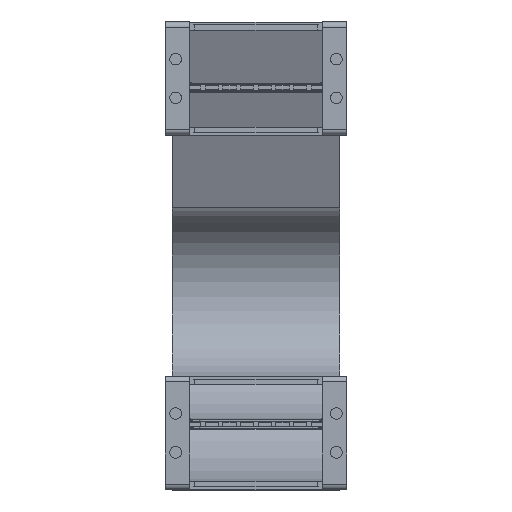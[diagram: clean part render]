
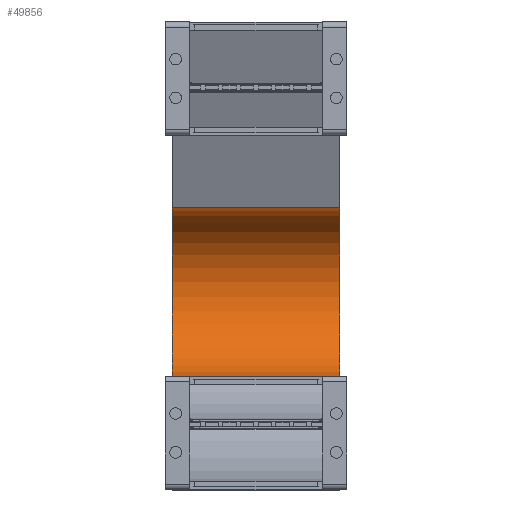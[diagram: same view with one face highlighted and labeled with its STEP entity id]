
A CAD part, top view. The second image highlights one B-rep face of the part: STEP entity #49856.
In plain terms, the highlighted cylindrical face has radius 48 mm (diameter 96 mm), a partial arc.
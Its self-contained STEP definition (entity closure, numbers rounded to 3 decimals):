
#49008=DIRECTION('',(-1.,0.,0.));
#49009=VECTOR('',#49008,95.);
#49010=CARTESIAN_POINT('',(47.5,64.,-500.));
#49011=LINE('',#49010,#49009);
#49022=DIRECTION('',(-1.,0.,0.));
#49023=VECTOR('',#49022,95.);
#49024=CARTESIAN_POINT('',(47.5,159.754,-504.851));
#49025=LINE('',#49024,#49023);
#49029=CARTESIAN_POINT('',(47.5,112.,-500.));
#49030=DIRECTION('',(-1.,0.,0.));
#49031=DIRECTION('',(0.,0.995,-0.101));
#49032=AXIS2_PLACEMENT_3D('',#49029,#49030,#49031);
#49108=CARTESIAN_POINT('',(-47.5,112.,-500.));
#49109=DIRECTION('',(-1.,0.,0.));
#49110=DIRECTION('',(0.,0.995,-0.101));
#49111=AXIS2_PLACEMENT_3D('',#49108,#49109,#49110);
#49230=CARTESIAN_POINT('',(47.5,159.754,-504.851));
#49231=CARTESIAN_POINT('',(-47.5,159.754,-504.851));
#49232=VERTEX_POINT('',#49230);
#49233=VERTEX_POINT('',#49231);
#49254=CARTESIAN_POINT('',(47.5,64.,-500.));
#49255=CARTESIAN_POINT('',(-47.5,64.,-500.));
#49256=VERTEX_POINT('',#49254);
#49257=VERTEX_POINT('',#49255);
#49842=CARTESIAN_POINT('',(1.,112.,-500.));
#49843=DIRECTION('',(-1.,0.,0.));
#49844=DIRECTION('',(0.,-0.995,0.101));
#49845=AXIS2_PLACEMENT_3D('',#49842,#49843,#49844);
#49846=CYLINDRICAL_SURFACE('',#49845,48.);
#49848=ORIENTED_EDGE('',*,*,#49847,.F.);
#49850=ORIENTED_EDGE('',*,*,#49849,.T.);
#49851=ORIENTED_EDGE('',*,*,#49825,.T.);
#49853=ORIENTED_EDGE('',*,*,#49852,.F.);
#49854=EDGE_LOOP('',(#49848,#49850,#49851,#49853));
#49855=FACE_OUTER_BOUND('',#49854,.F.);
#49033=CIRCLE('',#49032,48.);
#49112=CIRCLE('',#49111,48.);
#49825=EDGE_CURVE('',#49256,#49257,#49011,.T.);
#49847=EDGE_CURVE('',#49232,#49233,#49025,.T.);
#49849=EDGE_CURVE('',#49232,#49256,#49033,.T.);
#49852=EDGE_CURVE('',#49233,#49257,#49112,.T.);
#49856=ADVANCED_FACE('',(#49855),#49846,.F.);
